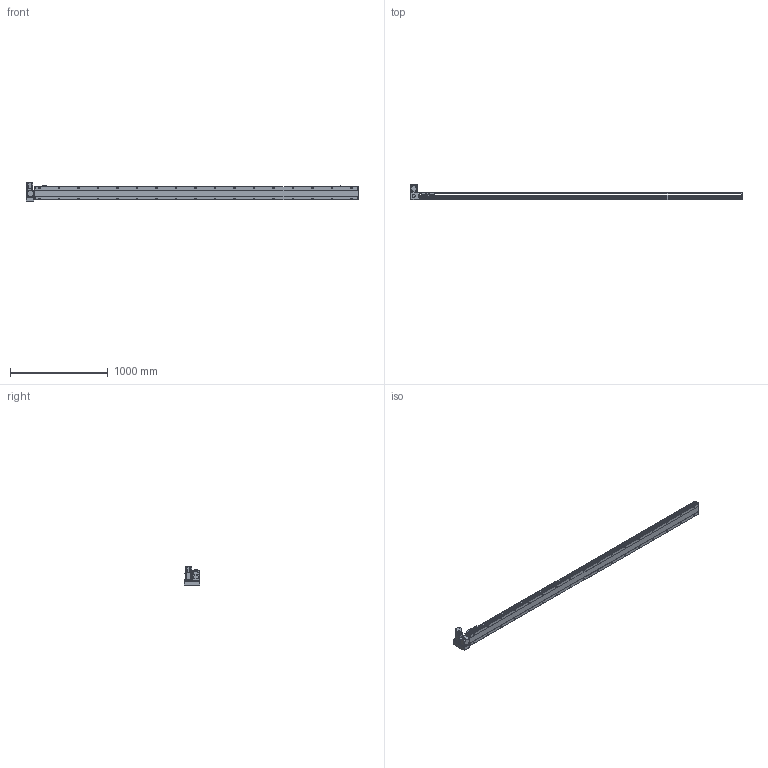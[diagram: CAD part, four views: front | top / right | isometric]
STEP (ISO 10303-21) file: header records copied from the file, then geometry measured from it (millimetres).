
FILE_DESCRIPTION( ( 'STEP AP214' ), '1' );
FILE_NAME( 'x:/temp/worker_1/temp/exporttempdir_5824_19_hCgqG/format_0/PBS140-P40-S3050-LU-T40-C1-N(0).stp', '2022-06-07T05:14:14', ( 'License CC BY-ND 4.0' ), ( 'CADENAS' ), ' ', 'PARTsolutions', ' ' );
FILE_SCHEMA( ( 'AUTOMOTIVE_DESIGN { 1 0 10303 214 1 1 1 1 }' ) );
Length unit declared in the file: millimetre
Products named in the file (7): PBS140-P40-S3050-LU-T40-C1-N(0); _PBS140-S3050()_body; _PBS140T-LU_motors; _T40-p1; _PBS140_sliser; _PBS140_plant; _PBS140_sensor
Assembly tree (8 placements, depth 2):
  PBS140-P40-S3050-LU-T40-C1-N(0)
    _PBS140-S3050()_body
    _PBS140T-LU_motors
    _T40-p1
    _PBS140_sliser
    _PBS140_plant
    _PBS140_sensor  x3
Bounding box: 3404 x 162.5 x 189.7 mm (x, y, z)
Volume: 15107332.1 mm3; surface area: 2560929.5 mm2
Topology: 8 solids, 8 shells, 1219 faces, 3196 edges, 2087 vertices
Faces by surface type: plane 746, cylinder 403, cone 60, sphere 8, torus 2
Full cylindrical faces by diameter (mm): 3.242 x4, 4 x2, 4.134 x4, 4.4 x8, 4.5 x2, 4.8 x4, 4.917 x42, 5.5 x7, 6 x2, 7 x36, 7.5 x8, 8 x12, 8.5 x4, 10.5 x34, 14 x1, 30 x2, 50 x2
Entity records: 45067 total; most frequent: CARTESIAN_POINT 7763, DIRECTION 5827, ORIENTED_EDGE 5452, EDGE_CURVE 2726, AXIS2_PLACEMENT_3D 2077, VERTEX_POINT 1917, LINE 1673, VECTOR 1673
